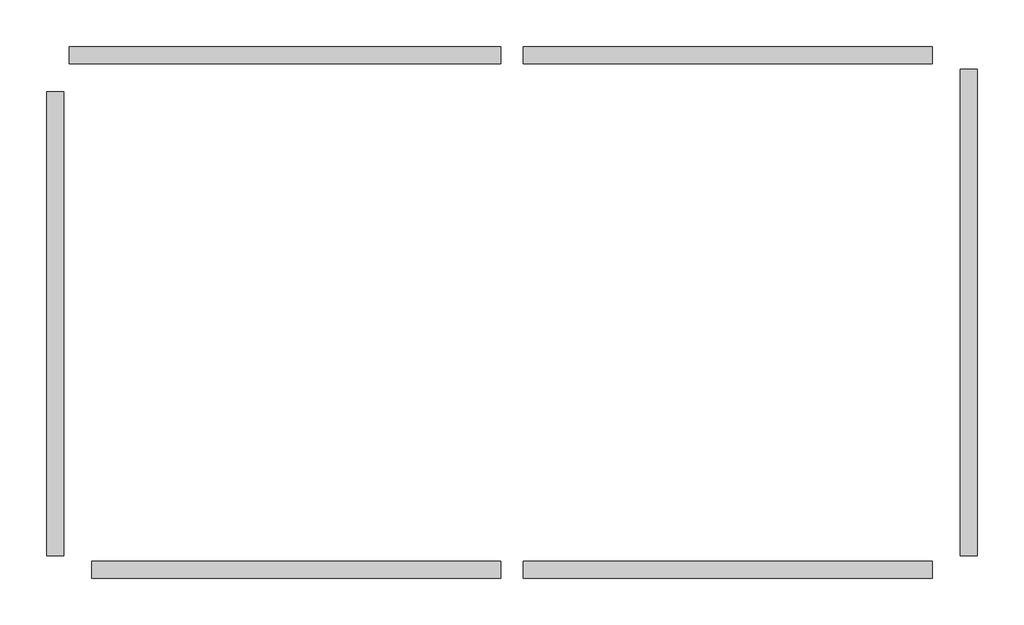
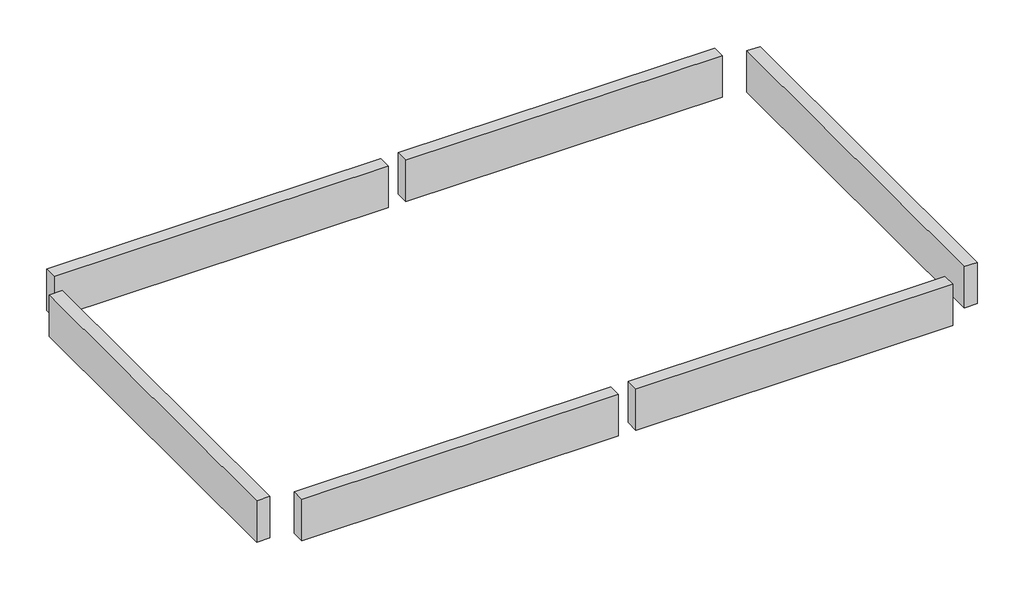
# One storey: 4 beams.
"""IFC4 building model written with IfcOpenShell, lengths in millimetres."""

from ifc_helpers import new_model, si_unit, frame, origin, place, context, project, spatial, polyline, outline, extrude, element, save

model = new_model("IFC4")

# Units and contexts
model_context = context("Model", 3, world=origin())
ifc_project = project(units=[si_unit("LENGTHUNIT", "METRE", prefix="MILLI")], contexts=[model_context])

# Site, building, storey
site = spatial("IfcSite", under=ifc_project)
building = spatial("IfcBuilding", under=site)
storey = spatial("IfcBuildingStorey", under=building, Name="CAIXA DE AGUA", Elevation=7050.0)

# Beams
placement = place(None, origin())
element("IfcBeam", 1, ObjectType="TQS - Viga retangular : 15,0 x 50,0", at=placement, inside=storey, context=model_context, shape_type="SweptSolid", body=[
    extrude(outline(polyline([(5500.0, 25650.0), (5500.0, 25800.0), (9315.0, 25800.0), (9315.0, 25650.0), (5500.0, 25650.0)])), frame((0.0, 0.0, 6550.0), z_axis=(0.0, 0.0, 1.0), x_axis=(1.0, 0.0, 0.0)), (0.0, 0.0, 1.0), 500.0),
    extrude(outline(polyline([(13130.0, 25800.0), (13130.0, 25650.0), (9515.0, 25650.0), (9515.0, 25800.0), (13130.0, 25800.0)])), frame((0.0, 0.0, 6550.0), z_axis=(0.0, 0.0, 1.0), x_axis=(1.0, 0.0, 0.0)), (0.0, 0.0, 1.0), 500.0),
])
element("IfcBeam", 2, ObjectType="TQS - Viga retangular : 15,0 x 50,0", at=placement, inside=storey, context=model_context, shape_type="SweptSolid", body=[
    extrude(outline(polyline([(5700.0, 21100.0), (5700.0, 21250.0), (9315.0, 21250.0), (9315.0, 21100.0), (5700.0, 21100.0)])), frame((0.0, 0.0, 6550.0), z_axis=(0.0, 0.0, 1.0), x_axis=(1.0, 0.0, 0.0)), (0.0, 0.0, 1.0), 500.0),
    extrude(outline(polyline([(13130.0, 21250.0), (13130.0, 21100.0), (9515.0, 21100.0), (9515.0, 21250.0), (13130.0, 21250.0)])), frame((0.0, 0.0, 6550.0), z_axis=(0.0, 0.0, 1.0), x_axis=(1.0, 0.0, 0.0)), (0.0, 0.0, 1.0), 500.0),
])
element("IfcBeam", 3, ObjectType="TQS - Viga retangular : 15,0 x 50,0", at=placement, inside=storey, context=model_context, shape_type="SweptSolid", body=[
    extrude(outline(polyline([(13380.0, 25600.0), (13530.0, 25600.0), (13530.0, 21300.0), (13380.0, 21300.0), (13380.0, 25600.0)])), frame((0.0, 0.0, 6550.0), z_axis=(0.0, 0.0, 1.0), x_axis=(1.0, 0.0, 0.0)), (0.0, 0.0, 1.0), 500.0),
])
element("IfcBeam", 4, ObjectType="TQS - Viga retangular : 15,0 x 50,0", at=placement, inside=storey, context=model_context, shape_type="SweptSolid", body=[
    extrude(outline(polyline([(5300.0, 25400.0), (5450.0, 25400.0), (5450.0, 21300.0), (5300.0, 21300.0), (5300.0, 25400.0)])), frame((0.0, 0.0, 6550.0), z_axis=(0.0, 0.0, 1.0), x_axis=(1.0, 0.0, 0.0)), (0.0, 0.0, 1.0), 500.0),
])

save(model, "model.ifc")
